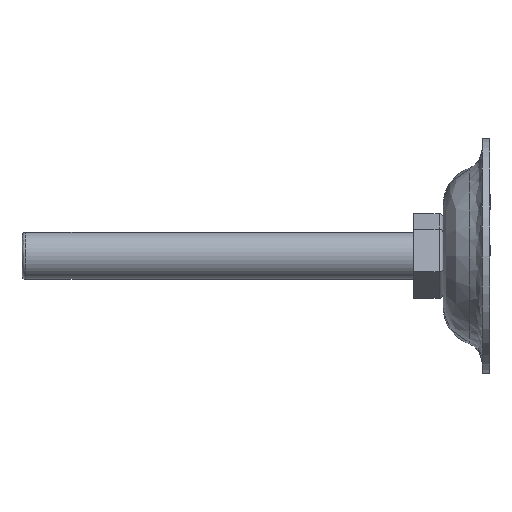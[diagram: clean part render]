
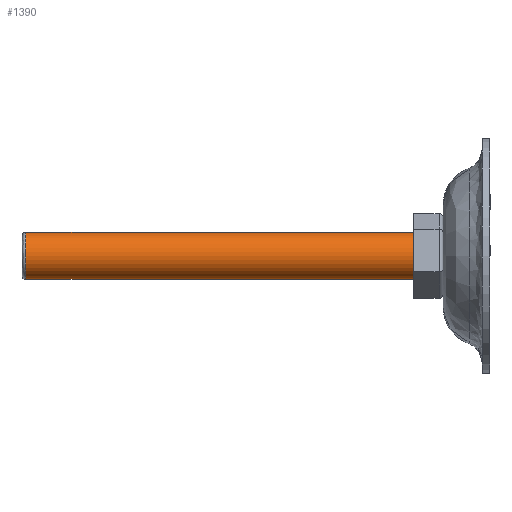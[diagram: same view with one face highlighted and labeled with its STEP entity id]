
A CAD part, left-side view. The second image highlights one B-rep face of the part: STEP entity #1390.
In plain terms, the highlighted cylindrical face has radius 6 mm (diameter 12 mm), a partial arc.
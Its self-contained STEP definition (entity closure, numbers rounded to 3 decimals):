
#53 = VECTOR ( 'NONE', #555, 1000. ) ;
#96 = AXIS2_PLACEMENT_3D ( 'NONE', #489, #613, #167 ) ;
#139 = CARTESIAN_POINT ( 'NONE',  ( -15.263, 10.835, 0. ) ) ;
#142 = EDGE_CURVE ( 'NONE', #1177, #344, #195, .T. ) ;
#146 = LINE ( 'NONE', #686, #53 ) ;
#167 = DIRECTION ( 'NONE',  ( 0., 0., -1. ) ) ;
#195 = LINE ( 'NONE', #429, #1438 ) ;
#232 = DIRECTION ( 'NONE',  ( 0., 0., -1. ) ) ;
#240 = DIRECTION ( 'NONE',  ( 0., -1., 0. ) ) ;
#250 = CARTESIAN_POINT ( 'NONE',  ( -15.263, 109.835, 0. ) ) ;
#274 = DIRECTION ( 'NONE',  ( 0., -1., 0. ) ) ;
#344 = VERTEX_POINT ( 'NONE', #1877 ) ;
#353 = CARTESIAN_POINT ( 'NONE',  ( -15.263, 109.835, 6. ) ) ;
#389 = VERTEX_POINT ( 'NONE', #1549 ) ;
#429 = CARTESIAN_POINT ( 'NONE',  ( -15.263, 110.835, -6. ) ) ;
#432 = EDGE_LOOP ( 'NONE', ( #994, #1351, #1861, #897 ) ) ;
#489 = CARTESIAN_POINT ( 'NONE',  ( -15.263, 110.835, 0. ) ) ;
#555 = DIRECTION ( 'NONE',  ( 0., -1., 0. ) ) ;
#568 = DIRECTION ( 'NONE',  ( 0., 1., 0. ) ) ;
#590 = CYLINDRICAL_SURFACE ( 'NONE', #96, 6. ) ;
#613 = DIRECTION ( 'NONE',  ( 0., -1., 0. ) ) ;
#686 = CARTESIAN_POINT ( 'NONE',  ( -15.263, 110.835, 6. ) ) ;
#814 = EDGE_CURVE ( 'NONE', #832, #1177, #1895, .T. ) ;
#832 = VERTEX_POINT ( 'NONE', #353 ) ;
#897 = ORIENTED_EDGE ( 'NONE', *, *, #1937, .T. ) ;
#994 = ORIENTED_EDGE ( 'NONE', *, *, #1526, .F. ) ;
#1177 = VERTEX_POINT ( 'NONE', #1535 ) ;
#1192 = DIRECTION ( 'NONE',  ( 0., 0., -1. ) ) ;
#1251 = CIRCLE ( 'NONE', #1972, 6. ) ;
#1351 = ORIENTED_EDGE ( 'NONE', *, *, #814, .T. ) ;
#1390 = ADVANCED_FACE ( 'NONE', ( #1442 ), #590, .T. ) ;
#1438 = VECTOR ( 'NONE', #274, 1000. ) ;
#1442 = FACE_OUTER_BOUND ( 'NONE', #432, .T. ) ;
#1526 = EDGE_CURVE ( 'NONE', #832, #389, #146, .T. ) ;
#1535 = CARTESIAN_POINT ( 'NONE',  ( -15.263, 109.835, -6. ) ) ;
#1549 = CARTESIAN_POINT ( 'NONE',  ( -15.263, 10.835, 6. ) ) ;
#1713 = AXIS2_PLACEMENT_3D ( 'NONE', #250, #240, #232 ) ;
#1861 = ORIENTED_EDGE ( 'NONE', *, *, #142, .T. ) ;
#1877 = CARTESIAN_POINT ( 'NONE',  ( -15.263, 10.835, -6. ) ) ;
#1895 = CIRCLE ( 'NONE', #1713, 6. ) ;
#1937 = EDGE_CURVE ( 'NONE', #344, #389, #1251, .T. ) ;
#1972 = AXIS2_PLACEMENT_3D ( 'NONE', #139, #568, #1192 ) ;
